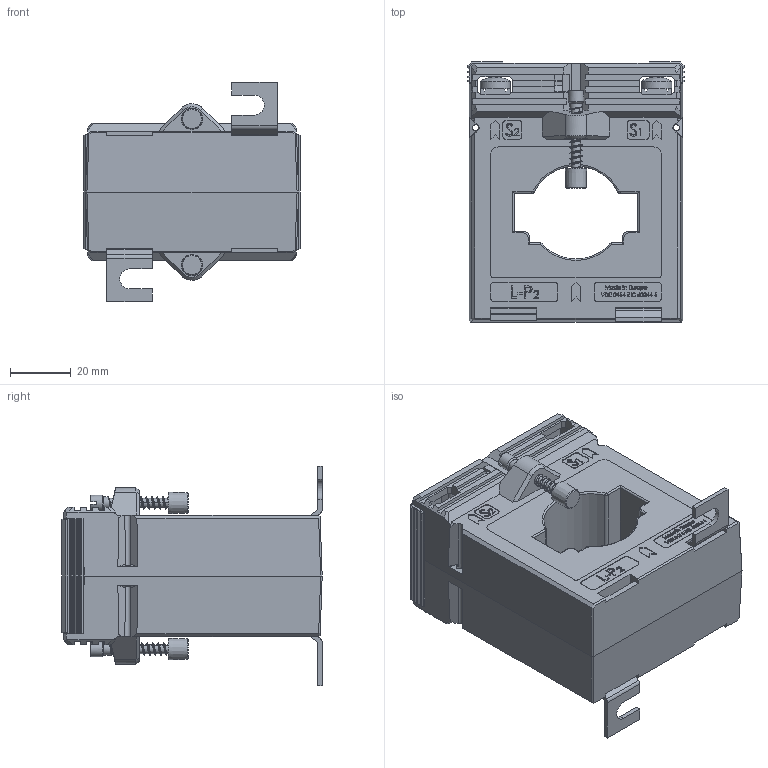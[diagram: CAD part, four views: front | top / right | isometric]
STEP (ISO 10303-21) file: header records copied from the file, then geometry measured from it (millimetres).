
FILE_DESCRIPTION(/* description */ (''),/* implementation_level */ '2;1');
FILE_NAME(/* name */ 'ASK412.4.stp',/* time_stamp */ '2024-03-05T09:27:52+01:00',/* author */ ('JDI'),/* organization */ (''),/* preprocessor_version */ 'ST-DEVELOPER v19.2',/* originating_system */ 'Autodesk Inventor 2023',/* authorisation */ '');
FILE_SCHEMA (('AUTOMOTIVE_DESIGN { 1 0 10303 214 3 1 1 }'));
Products named in the file (1): ASK412.4
Bounding box: 71 x 85.5 x 72 mm (x, y, z)
Volume: 187422.7 mm3; surface area: 41444.8 mm2
Topology: 1 solids, 1 shells, 1822 faces, 4880 edges, 3152 vertices
Faces by surface type: plane 1278, bspline 322, cylinder 158, cone 44, torus 12, sphere 8
Full cylindrical faces by diameter (mm): 2.95 x2, 3 x26, 3.8 x4, 4 x12, 4.1 x2, 5 x2, 10 x4
Entity records: 80029 total; most frequent: CARTESIAN_POINT 34979, ORIENTED_EDGE 9760, DIRECTION 7494, EDGE_CURVE 4880, LINE 3660, VECTOR 3660, VERTEX_POINT 3152, EDGE_LOOP 1988
